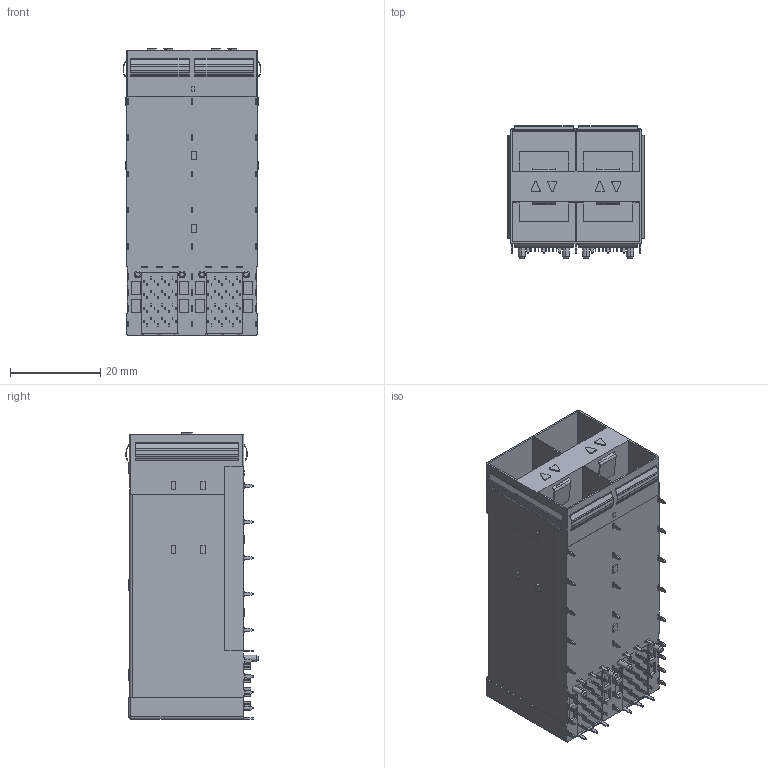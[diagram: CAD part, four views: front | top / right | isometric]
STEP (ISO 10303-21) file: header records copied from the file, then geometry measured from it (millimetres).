
FILE_DESCRIPTION (( 'STEP AP214' ), '1' );
FILE_NAME ('SFP28 2X2内灯.STEP', '2025-04-16T09:10:46', ( '桑三博客' ), ( 'Www.SangSan.Cn' ), 'SwSTEP 2.0', 'SolidWorks 2018', '' );
FILE_SCHEMA (( 'AUTOMOTIVE_DESIGN' ));
Length unit declared in the file: millimetre
Products named in the file (1): SFP28 2X2囀腑
Bounding box: 30.56 x 29.38 x 63.5 mm (x, y, z)
Volume: 23693.9 mm3; surface area: 19081.2 mm2
Topology: 1 solids, 1 shells, 1640 faces, 4619 edges, 3126 vertices
Faces by surface type: plane 1112, cylinder 518, cone 8, sphere 2
Entity records: 53091 total; most frequent: CARTESIAN_POINT 9384, ORIENTED_EDGE 9234, DIRECTION 8947, EDGE_CURVE 4617, VECTOR 3569, LINE 3569, VERTEX_POINT 3126, AXIS2_PLACEMENT_3D 2689
